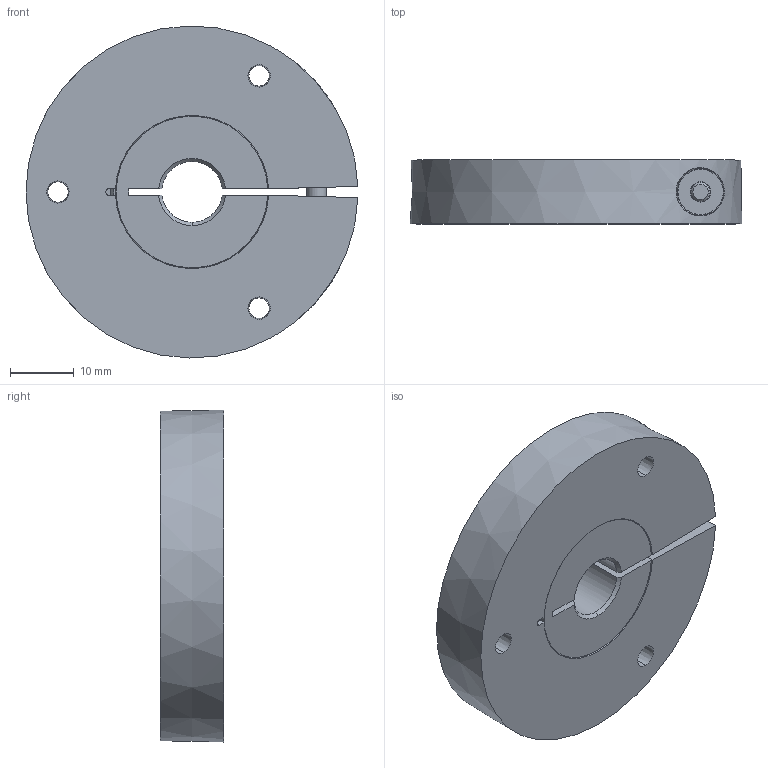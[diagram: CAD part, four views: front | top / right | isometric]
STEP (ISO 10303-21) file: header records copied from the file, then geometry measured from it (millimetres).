
FILE_DESCRIPTION (( 'STEP AP203' ), '1' );
FILE_NAME ('P6-RI-QR24-3_8inchDIA.step', '2015-01-26T21:36:36', ( 'Turck User' ), ( '' ), 'SwSTEP 2.0', 'SolidWorks 2014', '' );
FILE_SCHEMA (( 'CONFIG_CONTROL_DESIGN' ));
Length unit declared in the file: millimetre
Products named in the file (2): P6-RI-QR24-3_8inchDIA
Bounding box: 51.99 x 10 x 51.99 mm (x, y, z)
Volume: 19055.6 mm3; surface area: 9150.5 mm2
Topology: 2 solids, 2 shells, 97 faces, 239 edges, 152 vertices
Faces by surface type: cone 38, plane 34, cylinder 21, bspline 4
Entity records: 3196 total; most frequent: CARTESIAN_POINT 729, DIRECTION 493, ORIENTED_EDGE 478, EDGE_CURVE 239, AXIS2_PLACEMENT_3D 188, VERTEX_POINT 152, LINE 117, VECTOR 117
